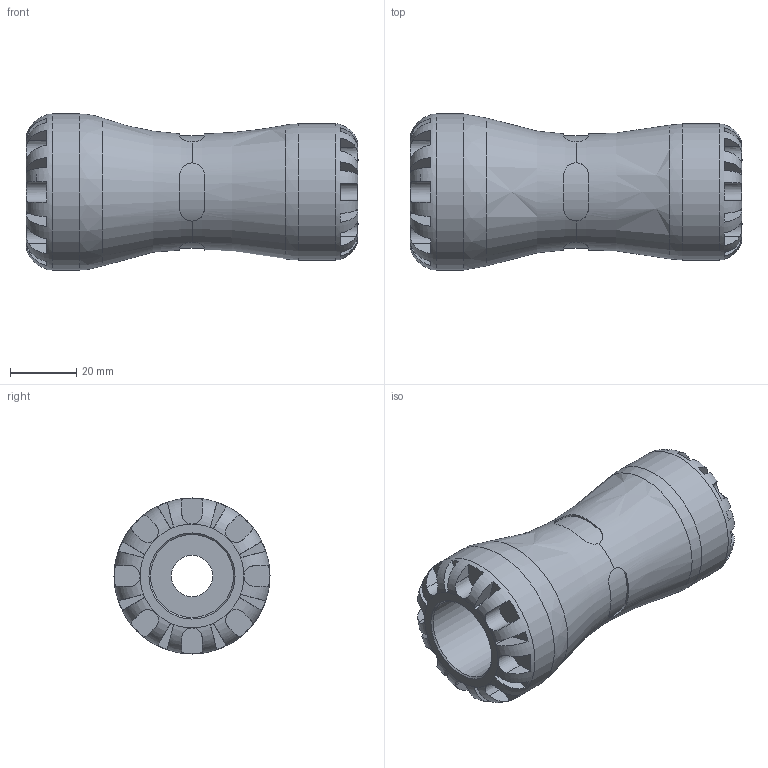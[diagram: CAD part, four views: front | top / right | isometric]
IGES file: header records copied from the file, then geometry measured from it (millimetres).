
Global section: file name: 1001C0025015_1901C0025015.ipt; native system: Autodesk Inventor 2015; preprocessor: unknown; author: KIM; date: 20170122.100457; units: millimetre
Bounding box: 100 x 47 x 47 mm (x, y, z)
Volume: 89730.9 mm3; surface area: 22912.3 mm2
Topology: 1 solids, 1 shells, 165 faces, 439 edges, 278 vertices
Faces by surface type: plane 108, revolution 35, cylinder 22
Full cylindrical faces by diameter (mm): 41 x1, 47 x1
